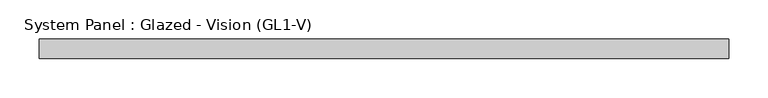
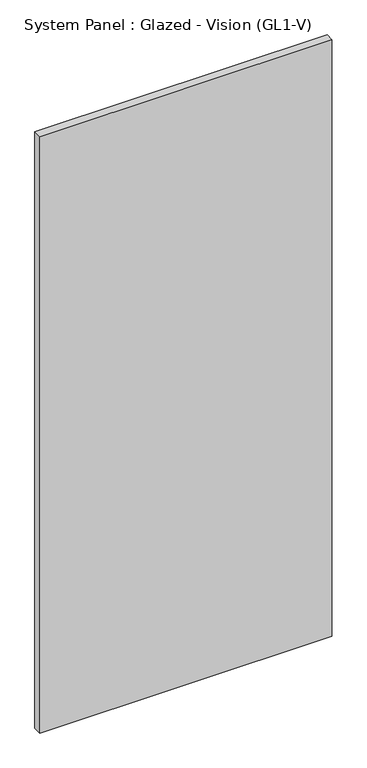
"""IFC4 building model written with IfcOpenShell, lengths in millimetres: plate geometry, System Panel : Glazed - Vision (GL1-V)."""

from ifc_helpers import new_model, si_unit, origin, origin_with_axes, place, context, project, spatial, polyline, outline, extrude, source, transform, mapped, element, save


def system_panel_glazed_vision_gl1_v_d8fe1c54(model_context):
    return source(origin(), model_context, "Body", "SweptSolid", [
        extrude(outline(polyline([(441.325, -25.4), (-441.325, -25.4), (-441.325, 0.0), (441.325, 0.0), (441.325, -25.4)])), origin_with_axes(), (0.0, 0.0, 1.0), 1904.999999),
    ])


if __name__ == "__main__":
    model = new_model("IFC4")
    model_context = context("Model", 3, world=origin())
    ifc_project = project(units=[si_unit("LENGTHUNIT", "METRE", prefix="MILLI")], contexts=[model_context])
    site = spatial("IfcSite", under=ifc_project)
    building = spatial("IfcBuilding", under=site)
    placement = place(None, origin())
    system_panel_glazed_vision_gl1_v_shape = system_panel_glazed_vision_gl1_v_d8fe1c54(model_context)
    element("IfcPlate", 1, ObjectType="System Panel : Glazed - Vision (GL1-V)", at=placement, inside=building, context=model_context, shape_type="MappedRepresentation", body=[
        mapped(system_panel_glazed_vision_gl1_v_shape, transform((0.0, 0.0, 0.0), x_axis=(1.0, 0.0, 0.0), y_axis=(0.0, 1.0, 0.0), z_axis=(0.0, 0.0, 1.0))),
    ])
    save(model, "model.ifc")
